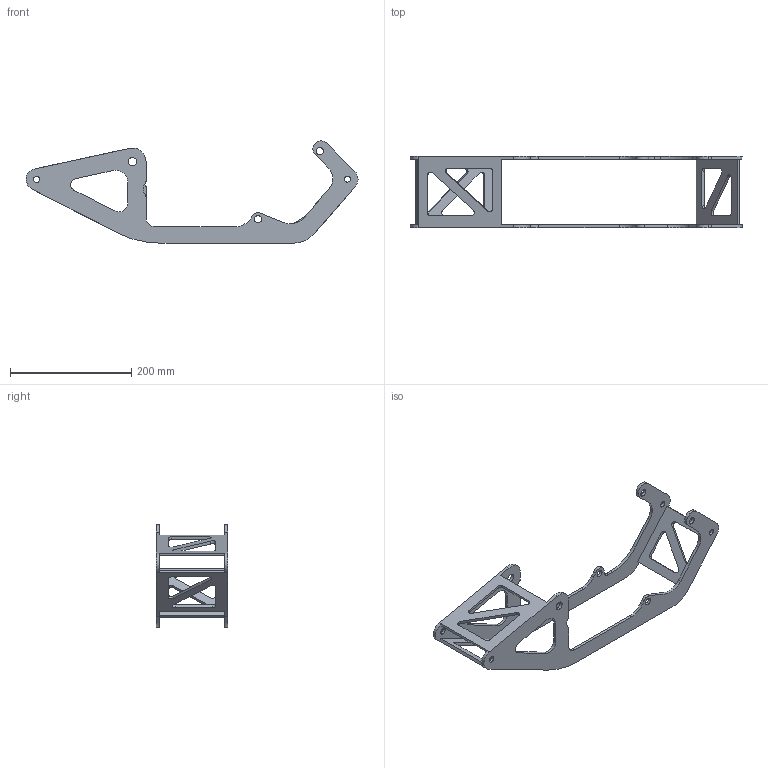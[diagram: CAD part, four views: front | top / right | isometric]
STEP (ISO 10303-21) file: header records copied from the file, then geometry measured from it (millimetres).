
FILE_DESCRIPTION( ( 'STEP Version 203' ), '1' );
FILE_NAME( 'E:/ANSYS_WB_14.0/ANSYS_WB_14.0_Manuscript - Copy/ANSYS_WB/C08/Tut01/Geom.stp', '09/06/19 11:32:38', ( 'SK-CADsoft' ), ( ' ' ), 'PSStep 21.0.47', 'DesignModeler STEP Output', ' ' );
FILE_SCHEMA( ( 'CONFIG_CONTROL_DESIGN' ) );
Length unit declared in the file: metre
Products named in the file (1): PartBody
Bounding box: 547.5 x 118 x 168.73 mm (x, y, z)
Volume: 395880.8 mm3; surface area: 184207 mm2
Topology: 1 solids, 1 shells, 124 faces, 370 edges, 244 vertices
Faces by surface type: plane 59, revolution 45, cylinder 20
Entity records: 4364 total; most frequent: CARTESIAN_POINT 819, ORIENTED_EDGE 720, DIRECTION 695, EDGE_CURVE 360, VERTEX_POINT 244, LINE 230, VECTOR 230, AXIS2_PLACEMENT_3D 210
